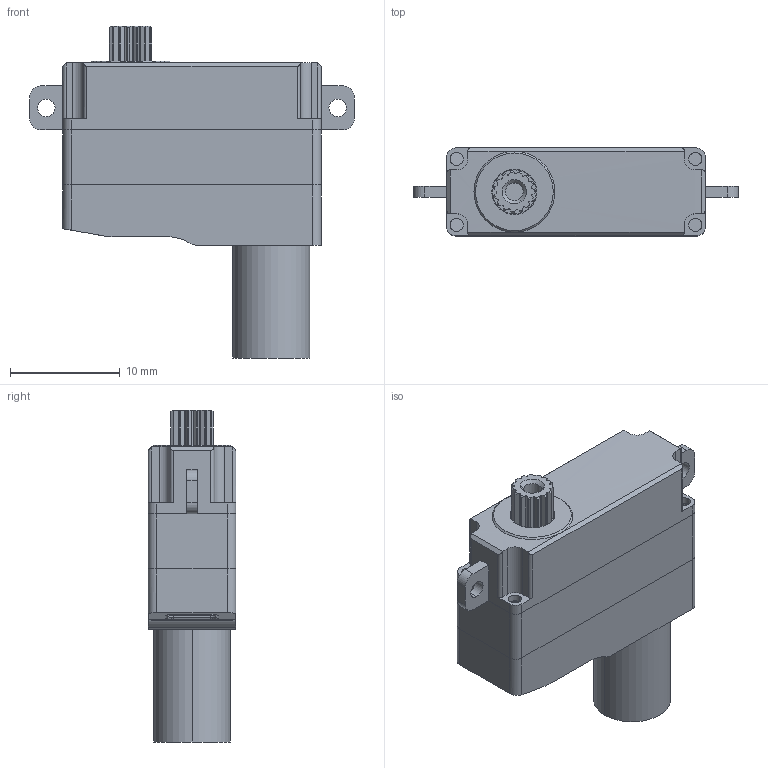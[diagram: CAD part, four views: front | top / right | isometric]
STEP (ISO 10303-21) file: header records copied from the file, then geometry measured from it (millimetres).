
FILE_DESCRIPTION (( 'STEP AP214' ), '1' );
FILE_NAME ('X08H Plus-3.2_DM_20231028.STEP', '2023-10-28T06:14:21', ( '' ), ( '' ), 'SwSTEP 2.0', 'SolidWorks 2016', '' );
FILE_SCHEMA (( 'AUTOMOTIVE_DESIGN' ));
Length unit declared in the file: millimetre
Products named in the file (1): X08H Plus-3.2_DM_20231028
Bounding box: 29.5 x 8 x 30.19 mm (x, y, z)
Surface area: 2503.5 mm2 (no closed solid volume)
Topology: 0 solids, 10 shells, 229 faces, 713 edges, 486 vertices
Faces by surface type: cylinder 115, plane 89, cone 19, bspline 6
Entity records: 10586 total; most frequent: CARTESIAN_POINT 1747, DIRECTION 1338, ORIENTED_EDGE 1261, EDGE_CURVE 713, VERTEX_POINT 486, AXIS2_PLACEMENT_3D 483, LINE 372, VECTOR 372
